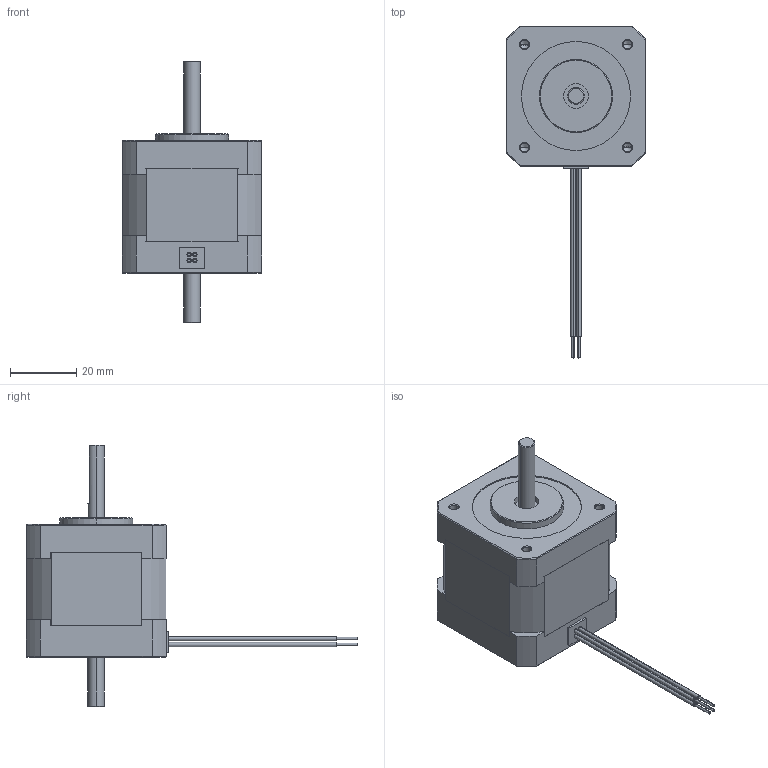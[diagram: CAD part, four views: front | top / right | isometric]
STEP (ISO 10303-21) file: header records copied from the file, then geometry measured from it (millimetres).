
FILE_DESCRIPTION (( 'STEP AP214' ), '1' );
FILE_NAME ('17Y202D-LW4.STEP', '2010-05-11T21:07:38', ( 'Tim Raines' ), ( 'Anaheim Automation' ), 'SwSTEP 2.0', 'SolidWorks 2010', '' );
FILE_SCHEMA (( 'AUTOMOTIVE_DESIGN' ));
Length unit declared in the file: inch
Products named in the file (1): 17Y202D-LW4
Bounding box: 42.16 x 99.95 x 78.87 mm (x, y, z)
Volume: 69733.7 mm3; surface area: 12422.4 mm2
Topology: 1 solids, 1 shells, 244 faces, 577 edges, 358 vertices
Faces by surface type: plane 113, cylinder 76, cone 47, torus 8
Entity records: 9993 total; most frequent: DIRECTION 1242, CARTESIAN_POINT 1222, ORIENTED_EDGE 1130, EDGE_CURVE 565, AXIS2_PLACEMENT_3D 450, VERTEX_POINT 358, LINE 342, VECTOR 342
